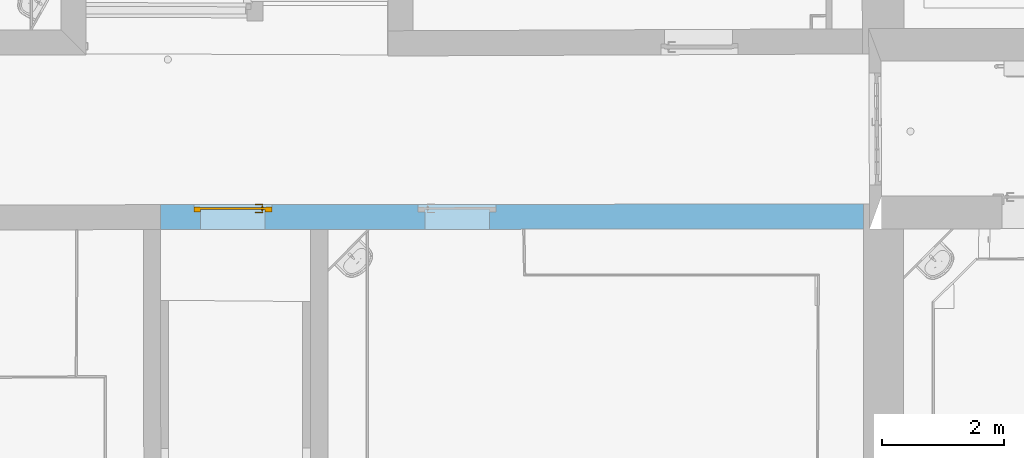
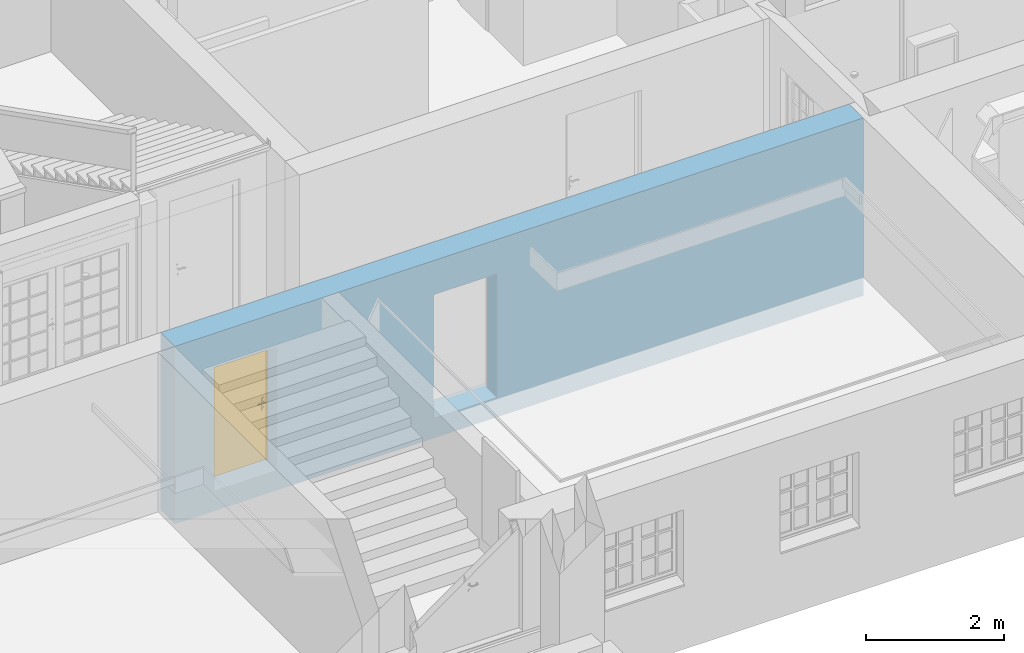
# One storey, part 88 of 196: 1 door, 2 openings, plus 1 element that does not belong to this part.
"""IFC2X3 building model written with IfcOpenShell, lengths in metres."""

from ifc_helpers import new_model, entity, si_unit, converted_unit, derived_unit, money_unit, direction, frame, origin_with_axes, origin_2d_with_axis, place, context, subcontext, project, spatial, polyline, rectangle, outline, extrude, boolean, faceted_brep, material, type_object, element, fill, save


model = new_model("IFC2X3")

# Units and contexts
model_context = context("Model", 3, precision=1e-05, world=origin_with_axes(), true_north=direction((0.0, 1.0)))
body_context = subcontext(model_context, "Body", "Model", "MODEL_VIEW")
ifc_project = project(units=[si_unit("LENGTHUNIT", "METRE"), si_unit("AREAUNIT", "SQUARE_METRE"), si_unit("VOLUMEUNIT", "CUBIC_METRE"), converted_unit("PLANEANGLEUNIT", "DEGREE", entity("IfcPlaneAngleMeasure", 0.0174532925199), si_unit("PLANEANGLEUNIT", "RADIAN"), dimensions=[0, 0, 0, 0, 0, 0, 0]), money_unit("EUR"), converted_unit("TIMEUNIT", "Year", entity("IfcTimeMeasure", 31556926.0), si_unit("TIMEUNIT", "SECOND"), dimensions=[0, 0, 1, 0, 0, 0, 0]), si_unit("MASSUNIT", "GRAM", prefix="KILO"), si_unit("THERMODYNAMICTEMPERATUREUNIT", "DEGREE_CELSIUS"), si_unit("LUMINOUSINTENSITYUNIT", "LUMEN"), si_unit("ENERGYUNIT", "JOULE", prefix="MEGA"), derived_unit("THERMALCONDUCTANCEUNIT", [(si_unit("POWERUNIT", "WATT"), 1), (si_unit("LENGTHUNIT", "METRE"), -1), (si_unit("THERMODYNAMICTEMPERATUREUNIT", "KELVIN"), -1)]), derived_unit("SPECIFICHEATCAPACITYUNIT", [(si_unit("ENERGYUNIT", "JOULE"), 1), (si_unit("MASSUNIT", "GRAM", prefix="KILO"), -1), (si_unit("THERMODYNAMICTEMPERATUREUNIT", "KELVIN"), -1)]), derived_unit("MASSDENSITYUNIT", [(si_unit("MASSUNIT", "GRAM", prefix="KILO"), 1), (si_unit("VOLUMEUNIT", "CUBIC_METRE"), -1)])], contexts=[model_context])

# Site, building, storey
site_placement = place(None, origin_with_axes())
site = spatial("IfcSite", under=ifc_project, at=site_placement, Name="Gelände", CompositionType="ELEMENT")
building_placement = place(site_placement, origin_with_axes())
building = spatial("IfcBuilding", under=site, at=building_placement, Name="Gebäude", CompositionType="ELEMENT")
storey_placement = place(building_placement, frame((0.0, 0.0, -3.0), z_axis=(0.0, 0.0, 1.0), x_axis=(1.0, 0.0, 0.0)))
storey = spatial("IfcBuildingStorey", under=building, at=storey_placement, Name="KELLERGESCHOSS", CompositionType="ELEMENT", Elevation=-3.0)

# Wall, openings, door
ifc_material = material(Name="05_ALLGEMEIN - TRAGENDE BAUTEILE")
wall_type = type_object("IfcWallType", Name="05_ALLGEMEIN - TRAGENDE BAUTEILE 410", PredefinedType="ELEMENTEDWALL")
wall_placement = place(storey_placement, frame((3.60938984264, 16.81025163, -0.36), z_axis=(0.0, 0.0, 1.0), x_axis=(-0.999999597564, -0.000897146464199, 0.0)))
wall = element("IfcWall", 1, at=wall_placement, inside=storey, type_object=wall_type, material=ifc_material, Name="Wand-036", ObjectType="ELEMENTEDWALL", context=body_context, shape_type="CSG", body=[
    boolean("DIFFERENCE", boolean("DIFFERENCE", extrude(outline(polyline([(0.0, 0.0), (12.2253754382, 0.0), (12.2253754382, 0.41), (0.0, 0.41), (0.0, 0.0)])), origin_with_axes(), (0.0, 0.0, 1.0), 3.15), faceted_brep([(12.2250234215, 0.41, 0.0), (12.2250234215, 0.41, 3.15), (12.2253754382, 0.41, 3.15), (12.2253754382, 0.41, 0.0), (12.2253754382, 0.0, 3.15), (12.2253754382, 0.0, 0.0)], [[[0, 1, 2, 3]], [[4, 1, 0, 5]], [[1, 4, 2]], [[4, 5, 3, 2]], [[5, 0, 3]]])), faceted_brep([(0.660000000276, 0.0, 3.15), (0.660011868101, 0.41, 3.15), (0.0, 0.41, 3.15), (0.0, 0.0, 3.15), (0.660011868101, 0.41, 0.0), (0.660000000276, 0.0, 0.0), (0.0, 0.41, 0.0), (0.0, 0.0, 0.0)], [[[0, 1, 2, 3]], [[4, 1, 0, 5]], [[1, 4, 6, 2]], [[2, 6, 7, 3]], [[5, 0, 3, 7]], [[4, 5, 7, 6]]])),
])
opening_1_placement = place(wall_placement, frame((7.34448336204, 0.0, 0.347304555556), z_axis=(0.0, 0.0, 1.0), x_axis=(1.0, 0.0, 0.0)))
element("IfcOpeningElement", 2, at=opening_1_placement, cuts=wall, Name="Tür-022", context=body_context, shape_type="SweptSolid", body=[
    extrude(rectangle(XDim=1.06444475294, YDim=2.200287, at=origin_2d_with_axis()), frame((0.0, 0.123, 1.1001435), z_axis=(0.0, -1.0, 0.0), x_axis=(-1.0, 0.0, 0.0)), (0.0, 0.0, -1.0), 0.697),
    extrude(rectangle(XDim=1.28444475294, YDim=2.310287, at=origin_2d_with_axis()), frame((0.0, 0.043, 1.1551435), z_axis=(0.0, 1.0, 0.0), x_axis=(-1.0, 0.0, 0.0)), (0.0, 0.0, 1.0), 0.08),
    extrude(rectangle(XDim=1.28444475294, YDim=2.310287, at=origin_2d_with_axis()), frame((0.0, 0.043, 1.1551435), z_axis=(0.0, 1.0, 0.0), x_axis=(-1.0, 0.0, 0.0)), (0.0, 0.0, -1.0), 0.453),
])
opening_2_placement = place(wall_placement, frame((11.0361313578, 0.0, 0.347304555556), z_axis=(0.0, 0.0, 1.0), x_axis=(1.0, 0.0, 0.0)))
opening_2 = element("IfcOpeningElement", 3, at=opening_2_placement, cuts=wall, Name="Tür-022", context=body_context, shape_type="SweptSolid", body=[
    extrude(rectangle(XDim=1.06444475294, YDim=2.200287, at=origin_2d_with_axis()), frame((0.0, 0.123, 1.1001435), z_axis=(0.0, 1.0, 0.0), x_axis=(1.0, 0.0, 0.0)), (0.0, 0.0, 1.0), 0.697),
    extrude(rectangle(XDim=1.28444475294, YDim=2.310287, at=origin_2d_with_axis()), frame((0.0, 0.043, 1.1551435), z_axis=(0.0, -1.0, 0.0), x_axis=(1.0, 0.0, 0.0)), (0.0, 0.0, -1.0), 0.08),
    extrude(rectangle(XDim=1.28444475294, YDim=2.310287, at=origin_2d_with_axis()), frame((0.0, 0.043, 1.1551435), z_axis=(0.0, -1.0, 0.0), x_axis=(1.0, 0.0, 0.0)), (0.0, 0.0, 1.0), 0.453),
])
door_style = type_object("IfcDoorStyle", Name="Blockrahmentür 1-Fl 25", ConstructionType="NOTDEFINED", OperationType="SINGLE_SWING_LEFT", ParameterTakesPrecedence=False, Sizeable=False)
door_placement = place(opening_2_placement, frame((0.532222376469, 0.0, 0.0), z_axis=(0.0, 0.0, 1.0), x_axis=(-1.0, 0.0, 0.0)))
door = element("IfcDoor", 4, at=door_placement, inside=storey, type_object=door_style, Name="Tür-022", ObjectType="NOTDEFINED", OverallHeight=2.31029, OverallWidth=1.28444, context=body_context, shape_type="Brep", body=[
    faceted_brep([(-0.11, -0.123, 0.0), (-0.11, -0.123, 2.310287), (-0.11, -0.083, 2.310287), (-0.11, -0.083, 0.0), (0.0, -0.123, 0.0), (0.0, -0.123, 2.200287), (0.420122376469, -0.123, 2.200287), (0.532122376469, -0.123, 2.200287), (1.06444475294, -0.123, 2.200287), (1.06444475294, -0.123, 0.0), (1.17444475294, -0.123, 0.0), (1.17444475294, -0.123, 2.310287), (1.17444475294, -0.083, 2.310287), (1.17444475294, -0.083, 0.0), (1.06444475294, -0.083, 0.0), (1.06444475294, -0.083, 2.200287), (0.532122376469, -0.083, 2.200287), (0.420122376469, -0.083, 2.200287), (0.0, -0.083, 2.200287), (0.0, -0.083, 0.0)], [[[0, 1, 2, 3]], [[0, 4, 5, 6, 7, 8, 9, 10, 11, 1]], [[1, 11, 12, 2]], [[3, 2, 12, 13, 14, 15, 16, 17, 18, 19]], [[4, 0, 3, 19]], [[5, 4, 19, 18]], [[6, 5, 18, 17]], [[7, 6, 17, 16]], [[8, 7, 16, 15]], [[9, 8, 15, 14]], [[10, 9, 14, 13]], [[11, 10, 13, 12]]]),
    faceted_brep([(-0.11, -0.083, 0.0), (-0.11, -0.083, 2.310287), (-0.11, -0.043, 2.310287), (-0.11, -0.043, 0.0), (-0.012, -0.083, 0.0), (-0.012, -0.083, 2.212287), (0.432122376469, -0.083, 2.212287), (0.520122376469, -0.083, 2.212287), (1.07644475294, -0.083, 2.212287), (1.07644475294, -0.083, 0.0), (1.17444475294, -0.083, 0.0), (1.17444475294, -0.083, 2.310287), (1.17444475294, -0.043, 2.310287), (1.17444475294, -0.043, 0.0), (1.07644475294, -0.043, 0.0), (1.07644475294, -0.043, 2.212287), (0.520122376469, -0.043, 2.212287), (0.432122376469, -0.043, 2.212287), (-0.012, -0.043, 2.212287), (-0.012, -0.043, 0.0)], [[[0, 1, 2, 3]], [[0, 4, 5, 6, 7, 8, 9, 10, 11, 1]], [[1, 11, 12, 2]], [[3, 2, 12, 13, 14, 15, 16, 17, 18, 19]], [[4, 0, 3, 19]], [[5, 4, 19, 18]], [[6, 5, 18, 17]], [[7, 6, 17, 16]], [[8, 7, 16, 15]], [[9, 8, 15, 14]], [[10, 9, 14, 13]], [[11, 10, 13, 12]]]),
    faceted_brep([(-0.012, -0.047, 0.0), (-0.012, -0.047, 2.212287), (1.07644475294, -0.047, 2.212287), (1.07644475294, -0.047, 0.0), (-0.012, -0.083, 0.0), (-0.012, -0.083, 2.212287), (1.07644475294, -0.083, 2.212287), (1.07644475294, -0.083, 0.0)], [[[0, 1, 2, 3]], [[0, 4, 5, 1]], [[1, 5, 6, 2]], [[2, 6, 7, 3]], [[3, 7, 4, 0]], [[7, 6, 5, 4]]]),
    faceted_brep([(1.02114703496, -0.123, 1.05647213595), (1.02114703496, -0.103, 1.05647213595), (1.01644475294, -0.103, 1.058), (1.01644475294, -0.123, 1.058), (1.02405320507, -0.123, 1.05247213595), (1.02405320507, -0.103, 1.05247213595), (1.02232260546, -0.101, 1.05809016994), (1.01644475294, -0.101, 1.06), (1.01174247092, -0.103, 1.05647213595), (1.01174247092, -0.123, 1.05647213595), (1.00883630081, -0.123, 1.05247213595), (1.00883630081, -0.123, 1.04752786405), (1.01174247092, -0.123, 1.04352786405), (1.01644475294, -0.123, 1.042), (1.02114703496, -0.123, 1.04352786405), (1.02405320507, -0.123, 1.04752786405), (1.02405320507, -0.103, 1.04752786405), (1.0259553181, -0.101, 1.05309016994), (1.02232260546, -0.093, 1.05809016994), (1.01644475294, -0.093, 1.06), (1.01056690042, -0.101, 1.05809016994), (1.00883630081, -0.103, 1.05247213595), (1.00883630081, -0.103, 1.04752786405), (1.01174247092, -0.103, 1.04352786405), (1.01644475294, -0.103, 1.042), (1.02114703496, -0.103, 1.04352786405), (1.0259553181, -0.101, 1.04690983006), (1.0259553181, -0.093, 1.05309016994), (1.0259553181, -0.093, 1.04690983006), (1.02232260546, -0.093, 1.04190983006), (1.01644475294, -0.093, 1.04), (1.01056690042, -0.093, 1.04190983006), (1.00693418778, -0.093, 1.04690983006), (1.00693418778, -0.093, 1.05309016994), (1.01056690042, -0.093, 1.05809016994), (1.00693418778, -0.101, 1.05309016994), (1.00693418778, -0.101, 1.04690983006), (1.01056690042, -0.101, 1.04190983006), (1.01644475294, -0.101, 1.04), (1.02232260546, -0.101, 1.04190983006)], [[[0, 1, 2, 3]], [[4, 5, 1, 0]], [[1, 6, 7, 2]], [[3, 2, 8, 9]], [[3, 9, 10, 11, 12, 13, 14, 15, 4, 0]], [[15, 16, 5, 4]], [[5, 17, 6, 1]], [[6, 18, 19, 7]], [[2, 7, 20, 8]], [[9, 8, 21, 10]], [[10, 21, 22, 11]], [[11, 22, 23, 12]], [[12, 23, 24, 13]], [[13, 24, 25, 14]], [[14, 25, 16, 15]], [[16, 26, 17, 5]], [[17, 27, 18, 6]], [[19, 18, 27, 28, 29, 30, 31, 32, 33, 34]], [[7, 19, 34, 20]], [[8, 20, 35, 21]], [[21, 35, 36, 22]], [[22, 36, 37, 23]], [[23, 37, 38, 24]], [[24, 38, 39, 25]], [[25, 39, 26, 16]], [[26, 28, 27, 17]], [[39, 29, 28, 26]], [[38, 30, 29, 39]], [[37, 31, 30, 38]], [[36, 32, 31, 37]], [[35, 33, 32, 36]], [[20, 34, 33, 35]]]),
    faceted_brep([(1.00425636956, -0.093, 1.11759695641), (0.999644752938, -0.093, 1.11), (0.993944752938, -0.093, 1.11), (0.993944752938, -0.093, 0.89), (0.999644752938, -0.093, 0.89), (1.00425636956, -0.093, 0.882403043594), (1.01200119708, -0.093, 0.878044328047), (1.02088830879, -0.093, 0.878044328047), (1.02863313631, -0.093, 0.882403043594), (1.03324475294, -0.093, 0.89), (1.03894475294, -0.093, 0.89), (1.03894475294, -0.093, 1.11), (1.03324475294, -0.093, 1.11), (1.02863313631, -0.093, 1.11759695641), (1.02088830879, -0.093, 1.12195567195), (1.01200119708, -0.093, 1.12195567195), (1.01644475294, -0.093, 0.967425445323), (1.02181993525, -0.093, 0.965143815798), (1.02391258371, -0.093, 0.959692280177), (1.02144475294, -0.093, 0.9544), (1.02144475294, -0.093, 0.9375), (1.01998028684, -0.093, 0.933964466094), (1.01644475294, -0.093, 0.9325), (1.01290921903, -0.093, 0.933964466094), (1.01144475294, -0.093, 0.9375), (1.01144475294, -0.093, 0.9544), (1.00897692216, -0.093, 0.959692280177), (1.01106957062, -0.093, 0.965143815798), (1.00425636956, -0.083, 1.11759695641), (0.999644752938, -0.083, 1.11), (0.993944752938, -0.083, 1.11), (0.993944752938, -0.083, 0.89), (0.999644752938, -0.083, 0.89), (1.00425636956, -0.083, 0.882403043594), (1.01200119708, -0.083, 0.878044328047), (1.02088830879, -0.083, 0.878044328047), (1.02863313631, -0.083, 0.882403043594), (1.03324475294, -0.083, 0.89), (1.03894475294, -0.083, 0.89), (1.03894475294, -0.083, 1.11), (1.03324475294, -0.083, 1.11), (1.02863313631, -0.083, 1.11759695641), (1.02088830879, -0.083, 1.12195567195), (1.01200119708, -0.083, 1.12195567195), (1.01644475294, -0.083, 0.967425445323), (1.02181993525, -0.083, 0.965143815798), (1.02391258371, -0.083, 0.959692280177), (1.02144475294, -0.083, 0.9544), (1.02144475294, -0.083, 0.9375), (1.01998028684, -0.083, 0.933964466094), (1.01644475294, -0.083, 0.9325), (1.01290921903, -0.083, 0.933964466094), (1.01144475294, -0.083, 0.9375), (1.01144475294, -0.083, 0.9544), (1.00897692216, -0.083, 0.959692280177), (1.01106957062, -0.083, 0.965143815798)], [[[0, 1, 2, 3, 4, 5, 6, 7, 8, 9, 10, 11, 12, 13, 14, 15], [16, 17, 18, 19, 20, 21, 22, 23, 24, 25, 26, 27]], [[0, 28, 29, 1]], [[1, 29, 30, 2]], [[2, 30, 31, 3]], [[3, 31, 32, 4]], [[4, 32, 33, 5]], [[5, 33, 34, 6]], [[6, 34, 35, 7]], [[7, 35, 36, 8]], [[8, 36, 37, 9]], [[9, 37, 38, 10]], [[10, 38, 39, 11]], [[11, 39, 40, 12]], [[12, 40, 41, 13]], [[13, 41, 42, 14]], [[14, 42, 43, 15]], [[15, 43, 28, 0]], [[16, 44, 45, 17]], [[17, 45, 46, 18]], [[18, 46, 47, 19]], [[47, 48, 20, 19]], [[21, 20, 48, 49]], [[22, 21, 49, 50]], [[23, 22, 50, 51]], [[24, 23, 51, 52]], [[25, 24, 52, 53]], [[25, 53, 54, 26]], [[26, 54, 55, 27]], [[27, 55, 44, 16]], [[32, 31, 30, 29, 28, 43, 42, 41, 40, 39, 38, 37, 36, 35, 34, 33], [46, 45, 44, 55, 54, 53, 52, 51, 50, 49, 48, 47]]]),
    faceted_brep([(0.902191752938, -0.123, 1.057158), (0.902190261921, -0.123, 1.05719388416), (0.902190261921, -0.138, 1.05719388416), (0.902191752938, -0.138, 1.057158), (0.92921938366, -0.123, 1.06432652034), (0.957047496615, -0.123, 1.06706086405), (0.984953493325, -0.123, 1.06529002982), (1.01221275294, -0.123, 1.05906), (1.01861532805, -0.123, 1.05976125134), (1.02411738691, -0.123, 1.05641280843), (1.0264362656, -0.123, 1.05040385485), (1.0246099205, -0.123, 1.04422735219), (1.01939605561, -0.123, 1.04044577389), (1.01295777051, -0.123, 1.04062800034), (1.00796614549, -0.123, 1.04469843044), (1.00798675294, -0.123, 1.044666), (0.982698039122, -0.123, 1.05019878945), (0.956855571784, -0.123, 1.05171460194), (0.931093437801, -0.123, 1.04917624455), (0.906043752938, -0.123, 1.042646), (0.900500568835, -0.123, 1.04356849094), (0.897139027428, -0.123, 1.04807159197), (0.897830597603, -0.123, 1.05364829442), (0.897830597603, -0.138, 1.05364829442), (0.897139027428, -0.138, 1.04807159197), (0.900500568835, -0.138, 1.04356849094), (0.906043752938, -0.138, 1.042646), (0.931093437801, -0.138, 1.04917624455), (0.956855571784, -0.138, 1.05171460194), (0.982698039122, -0.138, 1.05019878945), (1.00798675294, -0.138, 1.044666), (1.00796614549, -0.138, 1.04469843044), (1.01295777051, -0.138, 1.04062800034), (1.01939605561, -0.138, 1.04044577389), (1.0246099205, -0.138, 1.04422735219), (1.0264362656, -0.138, 1.05040385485), (1.02411738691, -0.138, 1.05641280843), (1.01861532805, -0.138, 1.05976125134), (1.01221275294, -0.138, 1.05906), (0.984953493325, -0.138, 1.06529002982), (0.957047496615, -0.138, 1.06706086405), (0.92921938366, -0.138, 1.06432652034)], [[[0, 1, 2, 3]], [[0, 4, 5, 6, 7, 8, 9, 10, 11, 12, 13, 14, 15, 16, 17, 18, 19, 20, 21, 22, 1]], [[1, 22, 23, 2]], [[3, 2, 23, 24, 25, 26, 27, 28, 29, 30, 31, 32, 33, 34, 35, 36, 37, 38, 39, 40, 41]], [[4, 0, 3, 41]], [[5, 4, 41, 40]], [[6, 5, 40, 39]], [[7, 6, 39, 38]], [[8, 7, 38, 37]], [[9, 8, 37, 36]], [[10, 9, 36, 35]], [[11, 10, 35, 34]], [[12, 11, 34, 33]], [[13, 12, 33, 32]], [[14, 13, 32, 31]], [[15, 14, 31, 30]], [[16, 15, 30, 29]], [[17, 16, 29, 28]], [[18, 17, 28, 27]], [[19, 18, 27, 26]], [[20, 19, 26, 25]], [[21, 20, 25, 24]], [[22, 21, 24, 23]]]),
    faceted_brep([(1.02114703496, -0.00699999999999, 1.05647213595), (1.01644475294, -0.00699999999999, 1.058), (1.01644475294, -0.027, 1.058), (1.02114703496, -0.027, 1.05647213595), (1.02405320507, -0.007, 1.05247213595), (1.02405320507, -0.007, 1.04752786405), (1.02114703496, -0.00699999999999, 1.04352786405), (1.01644475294, -0.00699999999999, 1.042), (1.01174247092, -0.00699999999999, 1.04352786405), (1.00883630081, -0.00699999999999, 1.04752786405), (1.00883630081, -0.00699999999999, 1.05247213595), (1.01174247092, -0.00699999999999, 1.05647213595), (1.01174247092, -0.027, 1.05647213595), (1.01644475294, -0.029, 1.06), (1.02232260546, -0.029, 1.05809016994), (1.02405320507, -0.027, 1.05247213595), (1.02405320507, -0.027, 1.04752786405), (1.02114703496, -0.027, 1.04352786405), (1.01644475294, -0.027, 1.042), (1.01174247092, -0.027, 1.04352786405), (1.00883630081, -0.027, 1.04752786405), (1.00883630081, -0.027, 1.05247213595), (1.01056690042, -0.029, 1.05809016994), (1.01644475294, -0.037, 1.06), (1.02232260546, -0.037, 1.05809016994), (1.0259553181, -0.029, 1.05309016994), (1.0259553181, -0.029, 1.04690983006), (1.02232260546, -0.029, 1.04190983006), (1.01644475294, -0.029, 1.04), (1.01056690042, -0.029, 1.04190983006), (1.00693418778, -0.029, 1.04690983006), (1.00693418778, -0.029, 1.05309016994), (1.01056690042, -0.037, 1.05809016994), (1.00693418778, -0.037, 1.05309016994), (1.00693418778, -0.037, 1.04690983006), (1.01056690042, -0.037, 1.04190983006), (1.01644475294, -0.037, 1.04), (1.02232260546, -0.037, 1.04190983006), (1.0259553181, -0.037, 1.04690983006), (1.0259553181, -0.037, 1.05309016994)], [[[0, 1, 2, 3]], [[1, 0, 4, 5, 6, 7, 8, 9, 10, 11]], [[1, 11, 12, 2]], [[3, 2, 13, 14]], [[4, 0, 3, 15]], [[5, 4, 15, 16]], [[6, 5, 16, 17]], [[7, 6, 17, 18]], [[8, 7, 18, 19]], [[9, 8, 19, 20]], [[10, 9, 20, 21]], [[11, 10, 21, 12]], [[2, 12, 22, 13]], [[14, 13, 23, 24]], [[15, 3, 14, 25]], [[16, 15, 25, 26]], [[17, 16, 26, 27]], [[18, 17, 27, 28]], [[19, 18, 28, 29]], [[20, 19, 29, 30]], [[21, 20, 30, 31]], [[12, 21, 31, 22]], [[13, 22, 32, 23]], [[23, 32, 33, 34, 35, 36, 37, 38, 39, 24]], [[25, 14, 24, 39]], [[26, 25, 39, 38]], [[27, 26, 38, 37]], [[28, 27, 37, 36]], [[29, 28, 36, 35]], [[30, 29, 35, 34]], [[31, 30, 34, 33]], [[22, 31, 33, 32]]]),
    faceted_brep([(1.00425636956, -0.047, 1.11759695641), (0.999644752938, -0.047, 1.11), (0.993944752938, -0.047, 1.11), (0.993944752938, -0.047, 0.89), (0.999644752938, -0.047, 0.89), (1.00425636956, -0.047, 0.882403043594), (1.01200119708, -0.047, 0.878044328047), (1.02088830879, -0.047, 0.878044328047), (1.02863313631, -0.047, 0.882403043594), (1.03324475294, -0.047, 0.89), (1.03894475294, -0.047, 0.89), (1.03894475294, -0.047, 1.11), (1.03324475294, -0.047, 1.11), (1.02863313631, -0.047, 1.11759695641), (1.02088830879, -0.047, 1.12195567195), (1.01200119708, -0.047, 1.12195567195), (1.01644475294, -0.047, 0.967425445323), (1.02181993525, -0.047, 0.965143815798), (1.02391258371, -0.047, 0.959692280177), (1.02144475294, -0.047, 0.9544), (1.02144475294, -0.047, 0.9375), (1.01998028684, -0.047, 0.933964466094), (1.01644475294, -0.047, 0.9325), (1.01290921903, -0.047, 0.933964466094), (1.01144475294, -0.047, 0.9375), (1.01144475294, -0.047, 0.9544), (1.00897692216, -0.047, 0.959692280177), (1.01106957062, -0.047, 0.965143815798), (1.00425636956, -0.037, 1.11759695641), (0.999644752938, -0.037, 1.11), (0.993944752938, -0.037, 1.11), (0.993944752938, -0.037, 0.89), (0.999644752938, -0.037, 0.89), (1.00425636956, -0.037, 0.882403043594), (1.01200119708, -0.037, 0.878044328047), (1.02088830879, -0.037, 0.878044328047), (1.02863313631, -0.037, 0.882403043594), (1.03324475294, -0.037, 0.89), (1.03894475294, -0.037, 0.89), (1.03894475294, -0.037, 1.11), (1.03324475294, -0.037, 1.11), (1.02863313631, -0.037, 1.11759695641), (1.02088830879, -0.037, 1.12195567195), (1.01200119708, -0.037, 1.12195567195), (1.01644475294, -0.037, 0.967425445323), (1.02181993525, -0.037, 0.965143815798), (1.02391258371, -0.037, 0.959692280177), (1.02144475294, -0.037, 0.9544), (1.02144475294, -0.037, 0.9375), (1.01998028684, -0.037, 0.933964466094), (1.01644475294, -0.037, 0.9325), (1.01290921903, -0.037, 0.933964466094), (1.01144475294, -0.037, 0.9375), (1.01144475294, -0.037, 0.9544), (1.00897692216, -0.037, 0.959692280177), (1.01106957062, -0.037, 0.965143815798)], [[[0, 1, 2, 3, 4, 5, 6, 7, 8, 9, 10, 11, 12, 13, 14, 15], [16, 17, 18, 19, 20, 21, 22, 23, 24, 25, 26, 27]], [[28, 29, 1, 0]], [[29, 30, 2, 1]], [[30, 31, 3, 2]], [[31, 32, 4, 3]], [[32, 33, 5, 4]], [[33, 34, 6, 5]], [[34, 35, 7, 6]], [[35, 36, 8, 7]], [[36, 37, 9, 8]], [[37, 38, 10, 9]], [[38, 39, 11, 10]], [[39, 40, 12, 11]], [[40, 41, 13, 12]], [[41, 42, 14, 13]], [[42, 43, 15, 14]], [[43, 28, 0, 15]], [[16, 44, 45, 17]], [[17, 45, 46, 18]], [[18, 46, 47, 19]], [[47, 48, 20, 19]], [[21, 20, 48, 49]], [[22, 21, 49, 50]], [[23, 22, 50, 51]], [[24, 23, 51, 52]], [[25, 24, 52, 53]], [[25, 53, 54, 26]], [[26, 54, 55, 27]], [[27, 55, 44, 16]], [[32, 31, 30, 29, 28, 43, 42, 41, 40, 39, 38, 37, 36, 35, 34, 33], [46, 45, 44, 55, 54, 53, 52, 51, 50, 49, 48, 47]]]),
    faceted_brep([(0.902191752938, -0.00699999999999, 1.057158), (0.902191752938, 0.008, 1.057158), (0.902190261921, 0.00800000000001, 1.05719388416), (0.902190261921, -0.00699999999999, 1.05719388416), (0.92921938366, -0.00699999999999, 1.06432652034), (0.92921938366, 0.00800000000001, 1.06432652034), (0.957047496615, 0.00800000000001, 1.06706086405), (0.984953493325, 0.00800000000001, 1.06529002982), (1.01221275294, 0.00800000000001, 1.05906), (1.01861532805, 0.00800000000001, 1.05976125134), (1.02411738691, 0.008, 1.05641280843), (1.0264362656, 0.008, 1.05040385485), (1.0246099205, 0.00800000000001, 1.04422735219), (1.01939605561, 0.00800000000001, 1.04044577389), (1.01295777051, 0.00800000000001, 1.04062800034), (1.00796614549, 0.008, 1.04469843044), (1.00798675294, 0.00800000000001, 1.044666), (0.982698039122, 0.008, 1.05019878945), (0.956855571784, 0.008, 1.05171460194), (0.931093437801, 0.008, 1.04917624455), (0.906043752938, 0.00800000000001, 1.042646), (0.900500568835, 0.00800000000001, 1.04356849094), (0.897139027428, 0.00800000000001, 1.04807159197), (0.897830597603, 0.00800000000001, 1.05364829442), (0.897830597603, -0.00699999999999, 1.05364829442), (0.897139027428, -0.00699999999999, 1.04807159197), (0.900500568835, -0.00699999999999, 1.04356849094), (0.906043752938, -0.00699999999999, 1.042646), (0.931093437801, -0.007, 1.04917624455), (0.956855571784, -0.007, 1.05171460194), (0.982698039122, -0.007, 1.05019878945), (1.00798675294, -0.00699999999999, 1.044666), (1.00796614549, -0.007, 1.04469843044), (1.01295777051, -0.00699999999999, 1.04062800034), (1.01939605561, -0.00699999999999, 1.04044577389), (1.0246099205, -0.00699999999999, 1.04422735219), (1.0264362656, -0.007, 1.05040385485), (1.02411738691, -0.007, 1.05641280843), (1.01861532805, -0.00699999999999, 1.05976125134), (1.01221275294, -0.00699999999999, 1.05906), (0.984953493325, -0.00699999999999, 1.06529002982), (0.957047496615, -0.00699999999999, 1.06706086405)], [[[0, 1, 2, 3]], [[4, 5, 1, 0]], [[1, 5, 6, 7, 8, 9, 10, 11, 12, 13, 14, 15, 16, 17, 18, 19, 20, 21, 22, 23, 2]], [[3, 2, 23, 24]], [[0, 3, 24, 25, 26, 27, 28, 29, 30, 31, 32, 33, 34, 35, 36, 37, 38, 39, 40, 41, 4]], [[41, 6, 5, 4]], [[40, 7, 6, 41]], [[39, 8, 7, 40]], [[38, 9, 8, 39]], [[37, 10, 9, 38]], [[36, 11, 10, 37]], [[35, 12, 11, 36]], [[34, 13, 12, 35]], [[33, 14, 13, 34]], [[32, 15, 14, 33]], [[31, 16, 15, 32]], [[30, 17, 16, 31]], [[29, 18, 17, 30]], [[28, 19, 18, 29]], [[27, 20, 19, 28]], [[26, 21, 20, 27]], [[25, 22, 21, 26]], [[24, 23, 22, 25]]]),
])
fill(opening_2, door)

save(model, "model.ifc")
